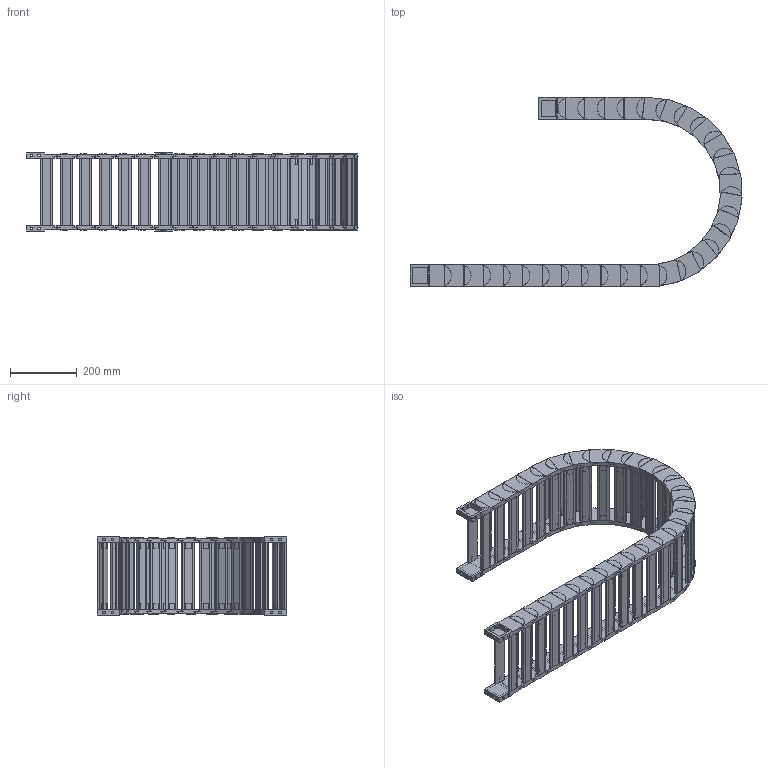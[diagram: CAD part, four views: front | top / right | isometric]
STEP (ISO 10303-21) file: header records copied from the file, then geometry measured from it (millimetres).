
FILE_DESCRIPTION((''),'2;1');
FILE_NAME('HD45-R250-ZPT_ASM','2022-06-20T20:38:00',('admin'),(''),'CREO PARAMETRIC BY PTC INC, 2021164','CREO PARAMETRIC BY PTC INC, 2021164','');
FILE_SCHEMA(('CONFIG_CONTROL_DESIGN','GEOMETRIC_VALIDATION_PROPERTIES_MIM'));
Length unit declared in the file: millimetre
Products named in the file (6): HD45-585; 45-500001; HD45_ASM; H45-T1-G; H45-T2-G; HD45-R250-ZPT_ASM
Assembly tree (34 placements, depth 3):
  HD45-R250-ZPT_ASM
    HD45_ASM  x28
      HD45-585
      45-500001
    H45-T1-G
    H45-T2-G
    45-500001  x2
Bounding box: 991.73 x 564.73 x 233.5 mm (x, y, z)
Volume: 6870567.1 mm3; surface area: 2240650.7 mm2
Topology: 120 solids, 120 shells, 2322 faces, 6218 edges, 4260 vertices
Faces by surface type: plane 1526, cylinder 796
Entity records: 8726 total; most frequent: CARTESIAN_POINT 1408, DIRECTION 1398, ORIENTED_EDGE 1276, EDGE_CURVE 638, AXIS2_PLACEMENT_3D 488, VERTEX_POINT 432, VECTOR 422, LINE 422
